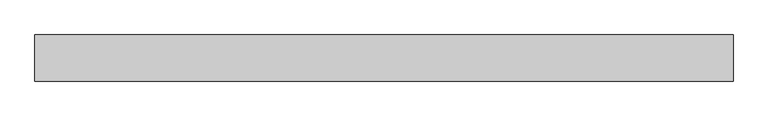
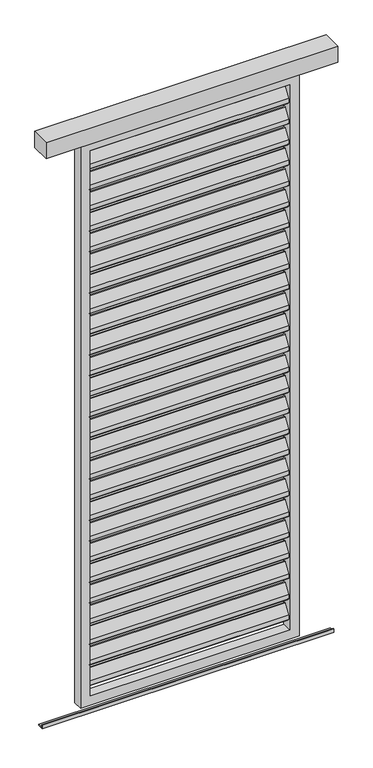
"""IFC4 building model written with IfcOpenShell, lengths in millimetres: proxy geometry."""

from ifc_helpers import new_model, si_unit, point, frame, frame_2d, origin, place, context, project, spatial, polyline, circle_curve, trimmed, segment, composite_curve, outline, extrude, source, transform, mapped, element, save


def generic_models_19d24b3a(model_context):
    return source(origin(), model_context, "Body", "SweptSolid", [
        extrude(outline(polyline([(600.0, 46.0), (600.0, -34.0), (-600.0, -34.0), (-600.0, 46.0), (600.0, 46.0)])), frame((0.0, 0.0, 2500.0), z_axis=(0.0, 0.0, 1.0), x_axis=(1.0, 0.0, 0.0)), (0.0, 0.0, 1.0), 70.0),
        extrude(outline(composite_curve([segment(trimmed(circle_curve(frame_2d((12.6675921, 2432.6587719)), 3.0), [point((10.1515804, 2434.292689))], [point((15.6675921, 2432.6587719))], False, "CARTESIAN"), True, "CONTINUOUS"), segment(polyline([(15.6675921, 2432.6587719), (15.6675921, 2414.2979873)]), True, "CONTINUOUS"), segment(trimmed(circle_curve(frame_2d((12.6675921, 2414.2979873)), 3.0), [point((15.6675921, 2414.2979873))], [point((15.1836038, 2412.6640702))], False, "CARTESIAN"), True, "CONTINUOUS"), segment(polyline([(15.1836038, 2412.6640702), (-8.8163962, 2375.707311)]), True, "CONTINUOUS"), segment(trimmed(circle_curve(frame_2d((-11.3324079, 2377.3412281)), 3.0), [point((-8.8163962, 2375.707311))], [point((-14.3324079, 2377.3412281))], False, "CARTESIAN"), True, "CONTINUOUS"), segment(polyline([(-14.3324079, 2377.3412281), (-14.3324079, 2396.5906532), (10.1515804, 2434.292689)]), True, "CONTINUOUS")], self_intersect=False)), frame((-410.0, 0.0, 0.0), z_axis=(1.0, 0.0, 0.0), x_axis=(0.0, 1.0, 0.0)), (0.0, 0.0, 1.0), 820.0),
        extrude(outline(composite_curve([segment(trimmed(circle_curve(frame_2d((12.6675921, 2342.6587719)), 3.0), [point((10.1515804, 2344.292689))], [point((15.6675921, 2342.6587719))], False, "CARTESIAN"), True, "CONTINUOUS"), segment(polyline([(15.6675921, 2342.6587719), (15.6675921, 2324.2979873)]), True, "CONTINUOUS"), segment(trimmed(circle_curve(frame_2d((12.6675921, 2324.2979873)), 3.0), [point((15.6675921, 2324.2979873))], [point((15.1836038, 2322.6640702))], False, "CARTESIAN"), True, "CONTINUOUS"), segment(polyline([(15.1836038, 2322.6640702), (-8.8163962, 2285.707311)]), True, "CONTINUOUS"), segment(trimmed(circle_curve(frame_2d((-11.3324079, 2287.3412281)), 3.0), [point((-8.8163962, 2285.707311))], [point((-14.3324079, 2287.3412281))], False, "CARTESIAN"), True, "CONTINUOUS"), segment(polyline([(-14.3324079, 2287.3412281), (-14.3324079, 2306.5906532), (10.1515804, 2344.292689)]), True, "CONTINUOUS")], self_intersect=False)), frame((-410.0, 0.0, 0.0), z_axis=(1.0, 0.0, 0.0), x_axis=(0.0, 1.0, 0.0)), (0.0, 0.0, 1.0), 820.0),
        extrude(outline(composite_curve([segment(trimmed(circle_curve(frame_2d((12.6675921, 2252.6587719)), 3.0), [point((10.1515804, 2254.292689))], [point((15.6675921, 2252.6587719))], False, "CARTESIAN"), True, "CONTINUOUS"), segment(polyline([(15.6675921, 2252.6587719), (15.6675921, 2234.2979873)]), True, "CONTINUOUS"), segment(trimmed(circle_curve(frame_2d((12.6675921, 2234.2979873)), 3.0), [point((15.6675921, 2234.2979873))], [point((15.1836038, 2232.6640702))], False, "CARTESIAN"), True, "CONTINUOUS"), segment(polyline([(15.1836038, 2232.6640702), (-8.8163962, 2195.707311)]), True, "CONTINUOUS"), segment(trimmed(circle_curve(frame_2d((-11.3324079, 2197.3412281)), 3.0), [point((-8.8163962, 2195.707311))], [point((-14.3324079, 2197.3412281))], False, "CARTESIAN"), True, "CONTINUOUS"), segment(polyline([(-14.3324079, 2197.3412281), (-14.3324079, 2216.5906532), (10.1515804, 2254.292689)]), True, "CONTINUOUS")], self_intersect=False)), frame((-410.0, 0.0, 0.0), z_axis=(1.0, 0.0, 0.0), x_axis=(0.0, 1.0, 0.0)), (0.0, 0.0, 1.0), 820.0),
        extrude(outline(composite_curve([segment(trimmed(circle_curve(frame_2d((12.6675921, 2162.6587719)), 3.0), [point((10.1515804, 2164.292689))], [point((15.6675921, 2162.6587719))], False, "CARTESIAN"), True, "CONTINUOUS"), segment(polyline([(15.6675921, 2162.6587719), (15.6675921, 2144.2979873)]), True, "CONTINUOUS"), segment(trimmed(circle_curve(frame_2d((12.6675921, 2144.2979873)), 3.0), [point((15.6675921, 2144.2979873))], [point((15.1836038, 2142.6640702))], False, "CARTESIAN"), True, "CONTINUOUS"), segment(polyline([(15.1836038, 2142.6640702), (-8.8163962, 2105.707311)]), True, "CONTINUOUS"), segment(trimmed(circle_curve(frame_2d((-11.3324079, 2107.3412281)), 3.0), [point((-8.8163962, 2105.707311))], [point((-14.3324079, 2107.3412281))], False, "CARTESIAN"), True, "CONTINUOUS"), segment(polyline([(-14.3324079, 2107.3412281), (-14.3324079, 2126.5906532), (10.1515804, 2164.292689)]), True, "CONTINUOUS")], self_intersect=False)), frame((-410.0, 0.0, 0.0), z_axis=(1.0, 0.0, 0.0), x_axis=(0.0, 1.0, 0.0)), (0.0, 0.0, 1.0), 820.0),
        extrude(outline(composite_curve([segment(trimmed(circle_curve(frame_2d((12.6675921, 2072.6587719)), 3.0), [point((10.1515804, 2074.292689))], [point((15.6675921, 2072.6587719))], False, "CARTESIAN"), True, "CONTINUOUS"), segment(polyline([(15.6675921, 2072.6587719), (15.6675921, 2054.2979873)]), True, "CONTINUOUS"), segment(trimmed(circle_curve(frame_2d((12.6675921, 2054.2979873)), 3.0), [point((15.6675921, 2054.2979873))], [point((15.1836038, 2052.6640702))], False, "CARTESIAN"), True, "CONTINUOUS"), segment(polyline([(15.1836038, 2052.6640702), (-8.8163962, 2015.707311)]), True, "CONTINUOUS"), segment(trimmed(circle_curve(frame_2d((-11.3324079, 2017.3412281)), 3.0), [point((-8.8163962, 2015.707311))], [point((-14.3324079, 2017.3412281))], False, "CARTESIAN"), True, "CONTINUOUS"), segment(polyline([(-14.3324079, 2017.3412281), (-14.3324079, 2036.5906532), (10.1515804, 2074.292689)]), True, "CONTINUOUS")], self_intersect=False)), frame((-410.0, 0.0, 0.0), z_axis=(1.0, 0.0, 0.0), x_axis=(0.0, 1.0, 0.0)), (0.0, 0.0, 1.0), 820.0),
        extrude(outline(composite_curve([segment(trimmed(circle_curve(frame_2d((12.6675921, 1982.6587719)), 3.0), [point((10.1515804, 1984.292689))], [point((15.6675921, 1982.6587719))], False, "CARTESIAN"), True, "CONTINUOUS"), segment(polyline([(15.6675921, 1982.6587719), (15.6675921, 1964.2979873)]), True, "CONTINUOUS"), segment(trimmed(circle_curve(frame_2d((12.6675921, 1964.2979873)), 3.0), [point((15.6675921, 1964.2979873))], [point((15.1836038, 1962.6640702))], False, "CARTESIAN"), True, "CONTINUOUS"), segment(polyline([(15.1836038, 1962.6640702), (-8.8163962, 1925.707311)]), True, "CONTINUOUS"), segment(trimmed(circle_curve(frame_2d((-11.3324079, 1927.3412281)), 3.0), [point((-8.8163962, 1925.707311))], [point((-14.3324079, 1927.3412281))], False, "CARTESIAN"), True, "CONTINUOUS"), segment(polyline([(-14.3324079, 1927.3412281), (-14.3324079, 1946.5906532), (10.1515804, 1984.292689)]), True, "CONTINUOUS")], self_intersect=False)), frame((-410.0, 0.0, 0.0), z_axis=(1.0, 0.0, 0.0), x_axis=(0.0, 1.0, 0.0)), (0.0, 0.0, 1.0), 820.0),
        extrude(outline(composite_curve([segment(trimmed(circle_curve(frame_2d((12.6675921, 1892.6587719)), 3.0), [point((10.1515804, 1894.292689))], [point((15.6675921, 1892.6587719))], False, "CARTESIAN"), True, "CONTINUOUS"), segment(polyline([(15.6675921, 1892.6587719), (15.6675921, 1874.2979873)]), True, "CONTINUOUS"), segment(trimmed(circle_curve(frame_2d((12.6675921, 1874.2979873)), 3.0), [point((15.6675921, 1874.2979873))], [point((15.1836038, 1872.6640702))], False, "CARTESIAN"), True, "CONTINUOUS"), segment(polyline([(15.1836038, 1872.6640702), (-8.8163962, 1835.707311)]), True, "CONTINUOUS"), segment(trimmed(circle_curve(frame_2d((-11.3324079, 1837.3412281)), 3.0), [point((-8.8163962, 1835.707311))], [point((-14.3324079, 1837.3412281))], False, "CARTESIAN"), True, "CONTINUOUS"), segment(polyline([(-14.3324079, 1837.3412281), (-14.3324079, 1856.5906532), (10.1515804, 1894.292689)]), True, "CONTINUOUS")], self_intersect=False)), frame((-410.0, 0.0, 0.0), z_axis=(1.0, 0.0, 0.0), x_axis=(0.0, 1.0, 0.0)), (0.0, 0.0, 1.0), 820.0),
        extrude(outline(composite_curve([segment(trimmed(circle_curve(frame_2d((12.6675921, 1802.6587719)), 3.0), [point((10.1515804, 1804.292689))], [point((15.6675921, 1802.6587719))], False, "CARTESIAN"), True, "CONTINUOUS"), segment(polyline([(15.6675921, 1802.6587719), (15.6675921, 1784.2979873)]), True, "CONTINUOUS"), segment(trimmed(circle_curve(frame_2d((12.6675921, 1784.2979873)), 3.0), [point((15.6675921, 1784.2979873))], [point((15.1836038, 1782.6640702))], False, "CARTESIAN"), True, "CONTINUOUS"), segment(polyline([(15.1836038, 1782.6640702), (-8.8163962, 1745.707311)]), True, "CONTINUOUS"), segment(trimmed(circle_curve(frame_2d((-11.3324079, 1747.3412281)), 3.0), [point((-8.8163962, 1745.707311))], [point((-14.3324079, 1747.3412281))], False, "CARTESIAN"), True, "CONTINUOUS"), segment(polyline([(-14.3324079, 1747.3412281), (-14.3324079, 1766.5906532), (10.1515804, 1804.292689)]), True, "CONTINUOUS")], self_intersect=False)), frame((-410.0, 0.0, 0.0), z_axis=(1.0, 0.0, 0.0), x_axis=(0.0, 1.0, 0.0)), (0.0, 0.0, 1.0), 820.0),
        extrude(outline(composite_curve([segment(trimmed(circle_curve(frame_2d((12.6675921, 1712.6587719)), 3.0), [point((10.1515804, 1714.292689))], [point((15.6675921, 1712.6587719))], False, "CARTESIAN"), True, "CONTINUOUS"), segment(polyline([(15.6675921, 1712.6587719), (15.6675921, 1694.2979873)]), True, "CONTINUOUS"), segment(trimmed(circle_curve(frame_2d((12.6675921, 1694.2979873)), 3.0), [point((15.6675921, 1694.2979873))], [point((15.1836038, 1692.6640702))], False, "CARTESIAN"), True, "CONTINUOUS"), segment(polyline([(15.1836038, 1692.6640702), (-8.8163962, 1655.707311)]), True, "CONTINUOUS"), segment(trimmed(circle_curve(frame_2d((-11.3324079, 1657.3412281)), 3.0), [point((-8.8163962, 1655.707311))], [point((-14.3324079, 1657.3412281))], False, "CARTESIAN"), True, "CONTINUOUS"), segment(polyline([(-14.3324079, 1657.3412281), (-14.3324079, 1676.5906532), (10.1515804, 1714.292689)]), True, "CONTINUOUS")], self_intersect=False)), frame((-410.0, 0.0, 0.0), z_axis=(1.0, 0.0, 0.0), x_axis=(0.0, 1.0, 0.0)), (0.0, 0.0, 1.0), 820.0),
        extrude(outline(composite_curve([segment(trimmed(circle_curve(frame_2d((12.6675921, 1622.6587719)), 3.0), [point((10.1515804, 1624.292689))], [point((15.6675921, 1622.6587719))], False, "CARTESIAN"), True, "CONTINUOUS"), segment(polyline([(15.6675921, 1622.6587719), (15.6675921, 1604.2979873)]), True, "CONTINUOUS"), segment(trimmed(circle_curve(frame_2d((12.6675921, 1604.2979873)), 3.0), [point((15.6675921, 1604.2979873))], [point((15.1836038, 1602.6640702))], False, "CARTESIAN"), True, "CONTINUOUS"), segment(polyline([(15.1836038, 1602.6640702), (-8.8163962, 1565.707311)]), True, "CONTINUOUS"), segment(trimmed(circle_curve(frame_2d((-11.3324079, 1567.3412281)), 3.0), [point((-8.8163962, 1565.707311))], [point((-14.3324079, 1567.3412281))], False, "CARTESIAN"), True, "CONTINUOUS"), segment(polyline([(-14.3324079, 1567.3412281), (-14.3324079, 1586.5906532), (10.1515804, 1624.292689)]), True, "CONTINUOUS")], self_intersect=False)), frame((-410.0, 0.0, 0.0), z_axis=(1.0, 0.0, 0.0), x_axis=(0.0, 1.0, 0.0)), (0.0, 0.0, 1.0), 820.0),
        extrude(outline(composite_curve([segment(trimmed(circle_curve(frame_2d((12.6675921, 1532.6587719)), 3.0), [point((10.1515804, 1534.292689))], [point((15.6675921, 1532.6587719))], False, "CARTESIAN"), True, "CONTINUOUS"), segment(polyline([(15.6675921, 1532.6587719), (15.6675921, 1514.2979873)]), True, "CONTINUOUS"), segment(trimmed(circle_curve(frame_2d((12.6675921, 1514.2979873)), 3.0), [point((15.6675921, 1514.2979873))], [point((15.1836038, 1512.6640702))], False, "CARTESIAN"), True, "CONTINUOUS"), segment(polyline([(15.1836038, 1512.6640702), (-8.8163962, 1475.707311)]), True, "CONTINUOUS"), segment(trimmed(circle_curve(frame_2d((-11.3324079, 1477.3412281)), 3.0), [point((-8.8163962, 1475.707311))], [point((-14.3324079, 1477.3412281))], False, "CARTESIAN"), True, "CONTINUOUS"), segment(polyline([(-14.3324079, 1477.3412281), (-14.3324079, 1496.5906532), (10.1515804, 1534.292689)]), True, "CONTINUOUS")], self_intersect=False)), frame((-410.0, 0.0, 0.0), z_axis=(1.0, 0.0, 0.0), x_axis=(0.0, 1.0, 0.0)), (0.0, 0.0, 1.0), 820.0),
        extrude(outline(composite_curve([segment(trimmed(circle_curve(frame_2d((12.6675921, 1442.6587719)), 3.0), [point((10.1515804, 1444.292689))], [point((15.6675921, 1442.6587719))], False, "CARTESIAN"), True, "CONTINUOUS"), segment(polyline([(15.6675921, 1442.6587719), (15.6675921, 1424.2979873)]), True, "CONTINUOUS"), segment(trimmed(circle_curve(frame_2d((12.6675921, 1424.2979873)), 3.0), [point((15.6675921, 1424.2979873))], [point((15.1836038, 1422.6640702))], False, "CARTESIAN"), True, "CONTINUOUS"), segment(polyline([(15.1836038, 1422.6640702), (-8.8163962, 1385.707311)]), True, "CONTINUOUS"), segment(trimmed(circle_curve(frame_2d((-11.3324079, 1387.3412281)), 3.0), [point((-8.8163962, 1385.707311))], [point((-14.3324079, 1387.3412281))], False, "CARTESIAN"), True, "CONTINUOUS"), segment(polyline([(-14.3324079, 1387.3412281), (-14.3324079, 1406.5906532), (10.1515804, 1444.292689)]), True, "CONTINUOUS")], self_intersect=False)), frame((-410.0, 0.0, 0.0), z_axis=(1.0, 0.0, 0.0), x_axis=(0.0, 1.0, 0.0)), (0.0, 0.0, 1.0), 820.0),
        extrude(outline(composite_curve([segment(trimmed(circle_curve(frame_2d((12.6675921, 1352.6587719)), 3.0), [point((10.1515804, 1354.292689))], [point((15.6675921, 1352.6587719))], False, "CARTESIAN"), True, "CONTINUOUS"), segment(polyline([(15.6675921, 1352.6587719), (15.6675921, 1334.2979873)]), True, "CONTINUOUS"), segment(trimmed(circle_curve(frame_2d((12.6675921, 1334.2979873)), 3.0), [point((15.6675921, 1334.2979873))], [point((15.1836038, 1332.6640702))], False, "CARTESIAN"), True, "CONTINUOUS"), segment(polyline([(15.1836038, 1332.6640702), (-8.8163962, 1295.707311)]), True, "CONTINUOUS"), segment(trimmed(circle_curve(frame_2d((-11.3324079, 1297.3412281)), 3.0), [point((-8.8163962, 1295.707311))], [point((-14.3324079, 1297.3412281))], False, "CARTESIAN"), True, "CONTINUOUS"), segment(polyline([(-14.3324079, 1297.3412281), (-14.3324079, 1316.5906532), (10.1515804, 1354.292689)]), True, "CONTINUOUS")], self_intersect=False)), frame((-410.0, 0.0, 0.0), z_axis=(1.0, 0.0, 0.0), x_axis=(0.0, 1.0, 0.0)), (0.0, 0.0, 1.0), 820.0),
        extrude(outline(composite_curve([segment(trimmed(circle_curve(frame_2d((12.6675921, 1262.6587719)), 3.0), [point((10.1515804, 1264.292689))], [point((15.6675921, 1262.6587719))], False, "CARTESIAN"), True, "CONTINUOUS"), segment(polyline([(15.6675921, 1262.6587719), (15.6675921, 1244.2979873)]), True, "CONTINUOUS"), segment(trimmed(circle_curve(frame_2d((12.6675921, 1244.2979873)), 3.0), [point((15.6675921, 1244.2979873))], [point((15.1836038, 1242.6640702))], False, "CARTESIAN"), True, "CONTINUOUS"), segment(polyline([(15.1836038, 1242.6640702), (-8.8163962, 1205.707311)]), True, "CONTINUOUS"), segment(trimmed(circle_curve(frame_2d((-11.3324079, 1207.3412281)), 3.0), [point((-8.8163962, 1205.707311))], [point((-14.3324079, 1207.3412281))], False, "CARTESIAN"), True, "CONTINUOUS"), segment(polyline([(-14.3324079, 1207.3412281), (-14.3324079, 1226.5906532), (10.1515804, 1264.292689)]), True, "CONTINUOUS")], self_intersect=False)), frame((-410.0, 0.0, 0.0), z_axis=(1.0, 0.0, 0.0), x_axis=(0.0, 1.0, 0.0)), (0.0, 0.0, 1.0), 820.0),
        extrude(outline(composite_curve([segment(trimmed(circle_curve(frame_2d((12.6675921, 1172.6587719)), 3.0), [point((10.1515804, 1174.292689))], [point((15.6675921, 1172.6587719))], False, "CARTESIAN"), True, "CONTINUOUS"), segment(polyline([(15.6675921, 1172.6587719), (15.6675921, 1154.2979873)]), True, "CONTINUOUS"), segment(trimmed(circle_curve(frame_2d((12.6675921, 1154.2979873)), 3.0), [point((15.6675921, 1154.2979873))], [point((15.1836038, 1152.6640702))], False, "CARTESIAN"), True, "CONTINUOUS"), segment(polyline([(15.1836038, 1152.6640702), (-8.8163962, 1115.707311)]), True, "CONTINUOUS"), segment(trimmed(circle_curve(frame_2d((-11.3324079, 1117.3412281)), 3.0), [point((-8.8163962, 1115.707311))], [point((-14.3324079, 1117.3412281))], False, "CARTESIAN"), True, "CONTINUOUS"), segment(polyline([(-14.3324079, 1117.3412281), (-14.3324079, 1136.5906532), (10.1515804, 1174.292689)]), True, "CONTINUOUS")], self_intersect=False)), frame((-410.0, 0.0, 0.0), z_axis=(1.0, 0.0, 0.0), x_axis=(0.0, 1.0, 0.0)), (0.0, 0.0, 1.0), 820.0),
        extrude(outline(composite_curve([segment(trimmed(circle_curve(frame_2d((12.6675921, 1082.6587719)), 3.0), [point((10.1515804, 1084.292689))], [point((15.6675921, 1082.6587719))], False, "CARTESIAN"), True, "CONTINUOUS"), segment(polyline([(15.6675921, 1082.6587719), (15.6675921, 1064.2979873)]), True, "CONTINUOUS"), segment(trimmed(circle_curve(frame_2d((12.6675921, 1064.2979873)), 3.0), [point((15.6675921, 1064.2979873))], [point((15.1836038, 1062.6640702))], False, "CARTESIAN"), True, "CONTINUOUS"), segment(polyline([(15.1836038, 1062.6640702), (-8.8163962, 1025.707311)]), True, "CONTINUOUS"), segment(trimmed(circle_curve(frame_2d((-11.3324079, 1027.3412281)), 3.0), [point((-8.8163962, 1025.707311))], [point((-14.3324079, 1027.3412281))], False, "CARTESIAN"), True, "CONTINUOUS"), segment(polyline([(-14.3324079, 1027.3412281), (-14.3324079, 1046.5906532), (10.1515804, 1084.292689)]), True, "CONTINUOUS")], self_intersect=False)), frame((-410.0, 0.0, 0.0), z_axis=(1.0, 0.0, 0.0), x_axis=(0.0, 1.0, 0.0)), (0.0, 0.0, 1.0), 820.0),
        extrude(outline(composite_curve([segment(trimmed(circle_curve(frame_2d((12.6675921, 992.6587719)), 3.0), [point((10.1515804, 994.292689))], [point((15.6675921, 992.6587719))], False, "CARTESIAN"), True, "CONTINUOUS"), segment(polyline([(15.6675921, 992.6587719), (15.6675921, 974.2979873)]), True, "CONTINUOUS"), segment(trimmed(circle_curve(frame_2d((12.6675921, 974.2979873)), 3.0), [point((15.6675921, 974.2979873))], [point((15.1836038, 972.6640702))], False, "CARTESIAN"), True, "CONTINUOUS"), segment(polyline([(15.1836038, 972.6640702), (-8.8163962, 935.707311)]), True, "CONTINUOUS"), segment(trimmed(circle_curve(frame_2d((-11.3324079, 937.3412281)), 3.0), [point((-8.8163962, 935.707311))], [point((-14.3324079, 937.3412281))], False, "CARTESIAN"), True, "CONTINUOUS"), segment(polyline([(-14.3324079, 937.3412281), (-14.3324079, 956.5906532), (10.1515804, 994.292689)]), True, "CONTINUOUS")], self_intersect=False)), frame((-410.0, 0.0, 0.0), z_axis=(1.0, 0.0, 0.0), x_axis=(0.0, 1.0, 0.0)), (0.0, 0.0, 1.0), 820.0),
        extrude(outline(composite_curve([segment(trimmed(circle_curve(frame_2d((12.6675921, 902.6587719)), 3.0), [point((10.1515804, 904.292689))], [point((15.6675921, 902.6587719))], False, "CARTESIAN"), True, "CONTINUOUS"), segment(polyline([(15.6675921, 902.6587719), (15.6675921, 884.2979873)]), True, "CONTINUOUS"), segment(trimmed(circle_curve(frame_2d((12.6675921, 884.2979873)), 3.0), [point((15.6675921, 884.2979873))], [point((15.1836038, 882.6640702))], False, "CARTESIAN"), True, "CONTINUOUS"), segment(polyline([(15.1836038, 882.6640702), (-8.8163962, 845.707311)]), True, "CONTINUOUS"), segment(trimmed(circle_curve(frame_2d((-11.3324079, 847.3412281)), 3.0), [point((-8.8163962, 845.707311))], [point((-14.3324079, 847.3412281))], False, "CARTESIAN"), True, "CONTINUOUS"), segment(polyline([(-14.3324079, 847.3412281), (-14.3324079, 866.5906532), (10.1515804, 904.292689)]), True, "CONTINUOUS")], self_intersect=False)), frame((-410.0, 0.0, 0.0), z_axis=(1.0, 0.0, 0.0), x_axis=(0.0, 1.0, 0.0)), (0.0, 0.0, 1.0), 820.0),
        extrude(outline(composite_curve([segment(trimmed(circle_curve(frame_2d((12.6675921, 812.6587719)), 3.0), [point((10.1515804, 814.292689))], [point((15.6675921, 812.6587719))], False, "CARTESIAN"), True, "CONTINUOUS"), segment(polyline([(15.6675921, 812.6587719), (15.6675921, 794.2979873)]), True, "CONTINUOUS"), segment(trimmed(circle_curve(frame_2d((12.6675921, 794.2979873)), 3.0), [point((15.6675921, 794.2979873))], [point((15.1836038, 792.6640702))], False, "CARTESIAN"), True, "CONTINUOUS"), segment(polyline([(15.1836038, 792.6640702), (-8.8163962, 755.707311)]), True, "CONTINUOUS"), segment(trimmed(circle_curve(frame_2d((-11.3324079, 757.3412281)), 3.0), [point((-8.8163962, 755.707311))], [point((-14.3324079, 757.3412281))], False, "CARTESIAN"), True, "CONTINUOUS"), segment(polyline([(-14.3324079, 757.3412281), (-14.3324079, 776.5906532), (10.1515804, 814.292689)]), True, "CONTINUOUS")], self_intersect=False)), frame((-410.0, 0.0, 0.0), z_axis=(1.0, 0.0, 0.0), x_axis=(0.0, 1.0, 0.0)), (0.0, 0.0, 1.0), 820.0),
        extrude(outline(composite_curve([segment(trimmed(circle_curve(frame_2d((12.6675921, 722.6587719)), 3.0), [point((10.1515804, 724.292689))], [point((15.6675921, 722.6587719))], False, "CARTESIAN"), True, "CONTINUOUS"), segment(polyline([(15.6675921, 722.6587719), (15.6675921, 704.2979873)]), True, "CONTINUOUS"), segment(trimmed(circle_curve(frame_2d((12.6675921, 704.2979873)), 3.0), [point((15.6675921, 704.2979873))], [point((15.1836038, 702.6640702))], False, "CARTESIAN"), True, "CONTINUOUS"), segment(polyline([(15.1836038, 702.6640702), (-8.8163962, 665.707311)]), True, "CONTINUOUS"), segment(trimmed(circle_curve(frame_2d((-11.3324079, 667.3412281)), 3.0), [point((-8.8163962, 665.707311))], [point((-14.3324079, 667.3412281))], False, "CARTESIAN"), True, "CONTINUOUS"), segment(polyline([(-14.3324079, 667.3412281), (-14.3324079, 686.5906532), (10.1515804, 724.292689)]), True, "CONTINUOUS")], self_intersect=False)), frame((-410.0, 0.0, 0.0), z_axis=(1.0, 0.0, 0.0), x_axis=(0.0, 1.0, 0.0)), (0.0, 0.0, 1.0), 820.0),
        extrude(outline(composite_curve([segment(trimmed(circle_curve(frame_2d((12.6675921, 632.6587719)), 3.0), [point((10.1515804, 634.292689))], [point((15.6675921, 632.6587719))], False, "CARTESIAN"), True, "CONTINUOUS"), segment(polyline([(15.6675921, 632.6587719), (15.6675921, 614.2979873)]), True, "CONTINUOUS"), segment(trimmed(circle_curve(frame_2d((12.6675921, 614.2979873)), 3.0), [point((15.6675921, 614.2979873))], [point((15.1836038, 612.6640702))], False, "CARTESIAN"), True, "CONTINUOUS"), segment(polyline([(15.1836038, 612.6640702), (-8.8163962, 575.707311)]), True, "CONTINUOUS"), segment(trimmed(circle_curve(frame_2d((-11.3324079, 577.3412281)), 3.0), [point((-8.8163962, 575.707311))], [point((-14.3324079, 577.3412281))], False, "CARTESIAN"), True, "CONTINUOUS"), segment(polyline([(-14.3324079, 577.3412281), (-14.3324079, 596.5906532), (10.1515804, 634.292689)]), True, "CONTINUOUS")], self_intersect=False)), frame((-410.0, 0.0, 0.0), z_axis=(1.0, 0.0, 0.0), x_axis=(0.0, 1.0, 0.0)), (0.0, 0.0, 1.0), 820.0),
        extrude(outline(composite_curve([segment(trimmed(circle_curve(frame_2d((12.6675921, 542.6587719)), 3.0), [point((10.1515804, 544.292689))], [point((15.6675921, 542.6587719))], False, "CARTESIAN"), True, "CONTINUOUS"), segment(polyline([(15.6675921, 542.6587719), (15.6675921, 524.2979873)]), True, "CONTINUOUS"), segment(trimmed(circle_curve(frame_2d((12.6675921, 524.2979873)), 3.0), [point((15.6675921, 524.2979873))], [point((15.1836038, 522.6640702))], False, "CARTESIAN"), True, "CONTINUOUS"), segment(polyline([(15.1836038, 522.6640702), (-8.8163962, 485.707311)]), True, "CONTINUOUS"), segment(trimmed(circle_curve(frame_2d((-11.3324079, 487.3412281)), 3.0), [point((-8.8163962, 485.707311))], [point((-14.3324079, 487.3412281))], False, "CARTESIAN"), True, "CONTINUOUS"), segment(polyline([(-14.3324079, 487.3412281), (-14.3324079, 506.5906532), (10.1515804, 544.292689)]), True, "CONTINUOUS")], self_intersect=False)), frame((-410.0, 0.0, 0.0), z_axis=(1.0, 0.0, 0.0), x_axis=(0.0, 1.0, 0.0)), (0.0, 0.0, 1.0), 820.0),
        extrude(outline(composite_curve([segment(trimmed(circle_curve(frame_2d((12.6675921, 452.6587719)), 3.0), [point((10.1515804, 454.292689))], [point((15.6675921, 452.6587719))], False, "CARTESIAN"), True, "CONTINUOUS"), segment(polyline([(15.6675921, 452.6587719), (15.6675921, 434.2979873)]), True, "CONTINUOUS"), segment(trimmed(circle_curve(frame_2d((12.6675921, 434.2979873)), 3.0), [point((15.6675921, 434.2979873))], [point((15.1836038, 432.6640702))], False, "CARTESIAN"), True, "CONTINUOUS"), segment(polyline([(15.1836038, 432.6640702), (-8.8163962, 395.707311)]), True, "CONTINUOUS"), segment(trimmed(circle_curve(frame_2d((-11.3324079, 397.3412281)), 3.0), [point((-8.8163962, 395.707311))], [point((-14.3324079, 397.3412281))], False, "CARTESIAN"), True, "CONTINUOUS"), segment(polyline([(-14.3324079, 397.3412281), (-14.3324079, 416.5906532), (10.1515804, 454.292689)]), True, "CONTINUOUS")], self_intersect=False)), frame((-410.0, 0.0, 0.0), z_axis=(1.0, 0.0, 0.0), x_axis=(0.0, 1.0, 0.0)), (0.0, 0.0, 1.0), 820.0),
        extrude(outline(composite_curve([segment(trimmed(circle_curve(frame_2d((12.6675921, 362.6587719)), 3.0), [point((10.1515804, 364.292689))], [point((15.6675921, 362.6587719))], False, "CARTESIAN"), True, "CONTINUOUS"), segment(polyline([(15.6675921, 362.6587719), (15.6675921, 344.2979873)]), True, "CONTINUOUS"), segment(trimmed(circle_curve(frame_2d((12.6675921, 344.2979873)), 3.0), [point((15.6675921, 344.2979873))], [point((15.1836038, 342.6640702))], False, "CARTESIAN"), True, "CONTINUOUS"), segment(polyline([(15.1836038, 342.6640702), (-8.8163962, 305.707311)]), True, "CONTINUOUS"), segment(trimmed(circle_curve(frame_2d((-11.3324079, 307.3412281)), 3.0), [point((-8.8163962, 305.707311))], [point((-14.3324079, 307.3412281))], False, "CARTESIAN"), True, "CONTINUOUS"), segment(polyline([(-14.3324079, 307.3412281), (-14.3324079, 326.5906532), (10.1515804, 364.292689)]), True, "CONTINUOUS")], self_intersect=False)), frame((-410.0, 0.0, 0.0), z_axis=(1.0, 0.0, 0.0), x_axis=(0.0, 1.0, 0.0)), (0.0, 0.0, 1.0), 820.0),
        extrude(outline(composite_curve([segment(trimmed(circle_curve(frame_2d((12.6675921, 272.6587719)), 3.0), [point((10.1515804, 274.292689))], [point((15.6675921, 272.6587719))], False, "CARTESIAN"), True, "CONTINUOUS"), segment(polyline([(15.6675921, 272.6587719), (15.6675921, 254.2979873)]), True, "CONTINUOUS"), segment(trimmed(circle_curve(frame_2d((12.6675921, 254.2979873)), 3.0), [point((15.6675921, 254.2979873))], [point((15.1836038, 252.6640702))], False, "CARTESIAN"), True, "CONTINUOUS"), segment(polyline([(15.1836038, 252.6640702), (-8.8163962, 215.707311)]), True, "CONTINUOUS"), segment(trimmed(circle_curve(frame_2d((-11.3324079, 217.3412281)), 3.0), [point((-8.8163962, 215.707311))], [point((-14.3324079, 217.3412281))], False, "CARTESIAN"), True, "CONTINUOUS"), segment(polyline([(-14.3324079, 217.3412281), (-14.3324079, 236.5906532), (10.1515804, 274.292689)]), True, "CONTINUOUS")], self_intersect=False)), frame((-410.0, 0.0, 0.0), z_axis=(1.0, 0.0, 0.0), x_axis=(0.0, 1.0, 0.0)), (0.0, 0.0, 1.0), 820.0),
        extrude(outline(composite_curve([segment(trimmed(circle_curve(frame_2d((12.6675921, 182.6587719)), 3.0), [point((10.1515804, 184.292689))], [point((15.6675921, 182.6587719))], False, "CARTESIAN"), True, "CONTINUOUS"), segment(polyline([(15.6675921, 182.6587719), (15.6675921, 164.2979873)]), True, "CONTINUOUS"), segment(trimmed(circle_curve(frame_2d((12.6675921, 164.2979873)), 3.0), [point((15.6675921, 164.2979873))], [point((15.1836038, 162.6640702))], False, "CARTESIAN"), True, "CONTINUOUS"), segment(polyline([(15.1836038, 162.6640702), (-8.8163962, 125.707311)]), True, "CONTINUOUS"), segment(trimmed(circle_curve(frame_2d((-11.3324079, 127.3412281)), 3.0), [point((-8.8163962, 125.707311))], [point((-14.3324079, 127.3412281))], False, "CARTESIAN"), True, "CONTINUOUS"), segment(polyline([(-14.3324079, 127.3412281), (-14.3324079, 146.5906532), (10.1515804, 184.292689)]), True, "CONTINUOUS")], self_intersect=False)), frame((-410.0, 0.0, 0.0), z_axis=(1.0, 0.0, 0.0), x_axis=(0.0, 1.0, 0.0)), (0.0, 0.0, 1.0), 820.0),
        extrude(outline(polyline([(-6.0, 15.0), (-3.0, 15.0), (-3.0, 3.0), (20.0, 3.0), (20.0, 0.0), (-6.0, 0.0), (-6.0, 15.0)])), frame((-600.0, 0.0, 0.0), z_axis=(1.0, 0.0, 0.0), x_axis=(0.0, 1.0, 0.0)), (0.0, 0.0, 1.0), 1200.0),
        extrude(outline(polyline([(2500.0, -450.0), (45.0, -450.0), (45.0, 450.0), (2500.0, 450.0), (2500.0, -450.0)]), holes=[polyline([(2460.0, 410.0), (85.0, 410.0), (85.0, -410.0), (2460.0, -410.0), (2460.0, 410.0)])]), frame((0.0, -20.0, 0.0), z_axis=(0.0, 1.0, 0.0), x_axis=(0.0, 0.0, 1.0)), (0.0, 0.0, 1.0), 40.0),
    ])


if __name__ == "__main__":
    model = new_model("IFC4")
    model_context = context("Model", 3, world=origin())
    ifc_project = project(units=[si_unit("LENGTHUNIT", "METRE", prefix="MILLI")], contexts=[model_context])
    site = spatial("IfcSite", under=ifc_project)
    building = spatial("IfcBuilding", under=site)
    placement = place(None, origin())
    generic_models_shape = generic_models_19d24b3a(model_context)
    element("IfcBuildingElementProxy", 1, Name="Generic Models", at=placement, inside=building, context=model_context, shape_type="MappedRepresentation", body=[
        mapped(generic_models_shape, transform((0.0, 0.0, 0.0), x_axis=(1.0, 0.0, 0.0), y_axis=(0.0, 1.0, 0.0), z_axis=(0.0, 0.0, 1.0))),
    ])
    save(model, "model.ifc")
